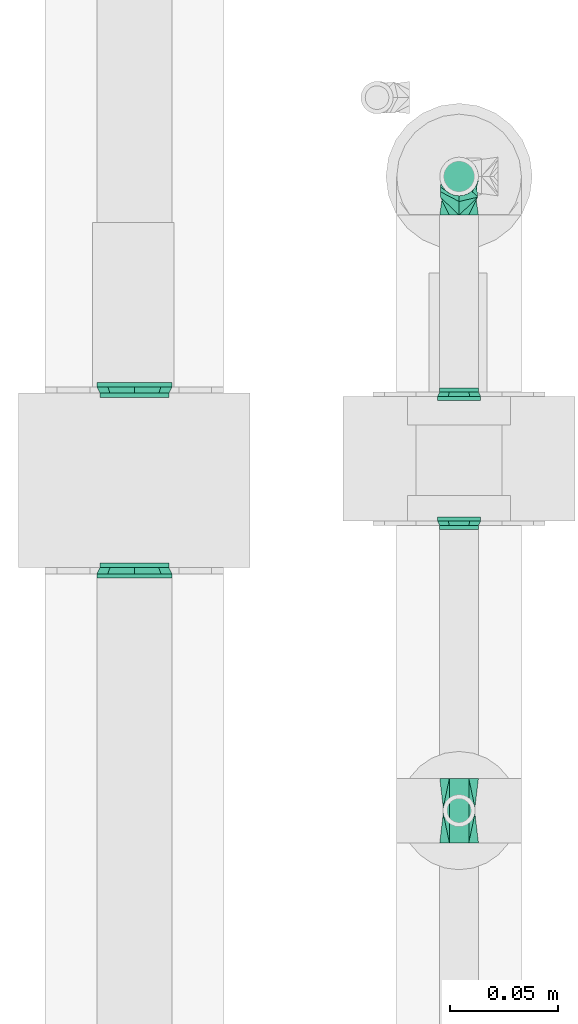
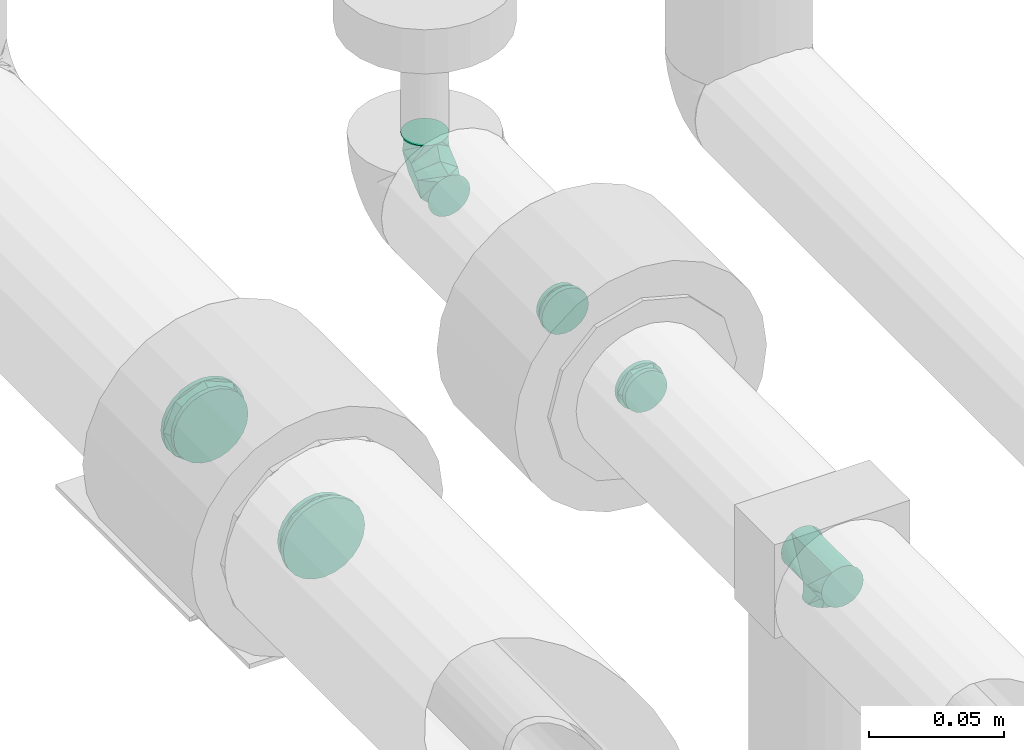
# One storey, part 40 of 78: 6 flow fittings.
"""IFC2X3 building model written with IfcOpenShell, lengths in millimetres."""

import ifcopenshell
import ifcopenshell.guid

model = None  # the IFC model being written
_history = None  # IfcOwnerHistory: only IFC2X3 demands one
_inside = {}  # id of a spatial element -> (the spatial element, [elements in it])
_under = {}  # id of a project, library or spatial element -> (it, [spatial elements below it])
_declared = {}  # id of a project -> (the project, [libraries it declares])
_typed = {}  # id of a type object -> (the type object, [elements of that type])
_made_of = {}  # id of a material, layer set ... -> (it, [elements and type objects made of it])


def new_model(schema):
    """Start an empty IFC model of exactly this schema.

    Asked for "IFC4X3", IfcOpenShell would pick the latest addendum, in which some entities
    have other attributes; the version numbers below select the first issue.
    IFC2X3 requires an IfcOwnerHistory on every rooted entity: one is made here for all.
    """
    global model, _history
    if schema == "IFC4X3":
        model = ifcopenshell.file(schema_version=(4, 3, 0, 0))
    else:
        model = ifcopenshell.file(schema=schema)
    _inside.clear()
    _under.clear()
    _declared.clear()
    _typed.clear()
    _made_of.clear()
    _history = None
    if model.schema == "IFC2X3":
        org = make("IfcOrganization", Name="unknown")
        user = make(
            "IfcPersonAndOrganization",
            ThePerson=make("IfcPerson", FamilyName="unknown"),
            TheOrganization=org,
        )
        app = make(
            "IfcApplication",
            ApplicationDeveloper=org,
            Version="unknown",
            ApplicationFullName="unknown",
            ApplicationIdentifier="unknown",
        )
        _history = make(
            "IfcOwnerHistory",
            OwningUser=user,
            OwningApplication=app,
            ChangeAction="ADDED",
            CreationDate=0,
        )
    return model


def make(cls, **values):
    """One entity of the class cls with the attributes given. An attribute that is None is left unset."""
    return model.create_entity(
        cls, **{name: value for name, value in values.items() if value is not None}
    )


def entity(cls, *values):
    """Any entity or typed value of the class cls, its attributes in the order of the schema. None: left unset."""
    e = model.create_entity(cls)
    for i, value in enumerate(values):
        if value is not None:
            e[i] = value
    return e


def rooted(cls, **values):
    """An entity with a GlobalId (a new one), such as an element, a storey or a relation."""
    return make(cls, GlobalId=ifcopenshell.guid.new(), OwnerHistory=_history, **values)


def si_unit(unit_type, name, prefix=None):
    """IfcSIUnit, for example si_unit("LENGTHUNIT", "METRE", prefix="MILLI")."""
    return make("IfcSIUnit", UnitType=unit_type, Prefix=prefix, Name=name)


def converted_unit(unit_type, name, factor, base, dimensions=None, offset=None):
    """IfcConversionBasedUnit, such as the inch: factor (a typed value) times the base unit."""
    return make(
        "IfcConversionBasedUnit"
        if offset is None
        else "IfcConversionBasedUnitWithOffset",
        ConversionOffset=offset,
        Dimensions=None
        if dimensions is None
        else entity("IfcDimensionalExponents", *dimensions),
        UnitType=unit_type,
        Name=name,
        ConversionFactor=make(
            "IfcMeasureWithUnit", ValueComponent=factor, UnitComponent=base
        ),
    )


def derived_unit(unit_type, elements):
    """IfcDerivedUnit: a product of units, each with its exponent."""
    return make(
        "IfcDerivedUnit",
        Elements=[
            make("IfcDerivedUnitElement", Unit=unit, Exponent=power)
            for unit, power in elements
        ],
        UnitType=unit_type,
    )


def assignment(units):
    """IfcUnitAssignment: the units of a project."""
    return None if units is None else make("IfcUnitAssignment", Units=units)


def point(xyz):
    """IfcCartesianPoint."""
    return None if xyz is None else make("IfcCartesianPoint", Coordinates=xyz)


def direction(xyz):
    """IfcDirection."""
    return None if xyz is None else make("IfcDirection", DirectionRatios=xyz)


def frame(location, z_axis=None, x_axis=None):
    """IfcAxis2Placement3D, a coordinate frame: its origin and axes. An axis left out is left unset."""
    return make(
        "IfcAxis2Placement3D",
        Location=point(location),
        Axis=direction(z_axis),
        RefDirection=direction(x_axis),
    )


def origin_with_axes():
    """The frame at (0, 0, 0) with the z axis (0, 0, 1) and the x axis (1, 0, 0) written out."""
    return frame((0.0, 0.0, 0.0), z_axis=(0.0, 0.0, 1.0), x_axis=(1.0, 0.0, 0.0))


def place(relative_to, where):
    """IfcLocalPlacement: puts the frame where relative to a parent placement (None: the world)."""
    return make(
        "IfcLocalPlacement", PlacementRelTo=relative_to, RelativePlacement=where
    )


def context(
    kind, dimensions, precision=None, world=None, true_north=None, identifier=None
):
    """IfcGeometricRepresentationContext, for example the 3D "Model" context."""
    return make(
        "IfcGeometricRepresentationContext",
        ContextIdentifier=identifier,
        ContextType=kind,
        CoordinateSpaceDimension=dimensions,
        Precision=precision,
        WorldCoordinateSystem=world,
        TrueNorth=true_north,
    )


def subcontext(parent, identifier, kind, view, scale=None):
    """IfcGeometricRepresentationSubContext, for example "Body" below "Model"."""
    return make(
        "IfcGeometricRepresentationSubContext",
        ContextIdentifier=identifier,
        ContextType=kind,
        ParentContext=parent,
        TargetScale=scale,
        TargetView=view,
    )


def project(units=None, contexts=None):
    """IfcProject with its units and contexts."""
    return rooted(
        "IfcProject",
        Name="project",
        RepresentationContexts=contexts,
        UnitsInContext=assignment(units),
    )


def spatial(cls, under=None, at=None, **own):
    """A site, building, storey or space (cls), placed at a placement, below another one or the project."""
    s = rooted(cls, ObjectPlacement=at, **own)
    if under is not None:
        _under.setdefault(under.id(), (under, []))[1].append(s)
    return s


def faces_of(points, faces, orient=None, outer=None):
    """IfcFace entities. A face is a list of loops; a loop is a list of indices into points, from 0.

    orient and outer hold one flag for each loop. By default every Orientation is true, the
    first loop of a face is its IfcFaceOuterBound and the others are IfcFaceBound.
    """
    made = []
    for i, loops in enumerate(faces):
        bounds = []
        for j, loop in enumerate(loops):
            is_outer = j == 0 if outer is None else outer[i][j]
            bounds.append(
                make(
                    "IfcFaceOuterBound" if is_outer else "IfcFaceBound",
                    Bound=make("IfcPolyLoop", Polygon=[points[k] for k in loop]),
                    Orientation=True if orient is None else orient[i][j],
                )
            )
        made.append(make("IfcFace", Bounds=bounds))
    return made


def open_shell(faces, orient=None, outer=None):
    """The faces of one IfcOpenShell. surface_model builds it on its shared points."""
    return ("IfcOpenShell", faces, orient, outer)


def surface_model(cls, points, shells):
    """IfcFaceBasedSurfaceModel or IfcShellBasedSurfaceModel (cls): surfaces that need not close."""
    shared = [point(p) for p in points]
    made = [make(c, CfsFaces=faces_of(shared, fs, o, b)) for c, fs, o, b in shells]
    if cls == "IfcFaceBasedSurfaceModel":
        return make(cls, FbsmFaces=made)
    return make(cls, SbsmBoundary=made)


def shape(context_of_items, identifier, shape_type, items):
    """IfcShapeRepresentation: the items that make up one representation, for example the "Body"."""
    return make(
        "IfcShapeRepresentation",
        ContextOfItems=context_of_items,
        RepresentationIdentifier=identifier,
        RepresentationType=shape_type,
        Items=items,
    )


def source(mapping_origin, context_of_items, identifier, shape_type, items):
    """IfcRepresentationMap: a shape defined once, which mapped items show again and again."""
    return make(
        "IfcRepresentationMap",
        MappingOrigin=mapping_origin,
        MappedRepresentation=shape(context_of_items, identifier, shape_type, items),
    )


def transform(
    local_origin,
    x_axis=None,
    y_axis=None,
    z_axis=None,
    scale=None,
    scale2=None,
    scale3=None,
    uniform=True,
):
    """IfcCartesianTransformationOperator3D, or its non-uniform kind. x_axis, y_axis, z_axis: its Axis1, 2, 3."""
    if uniform:
        return make(
            "IfcCartesianTransformationOperator3D",
            Axis1=direction(x_axis),
            Axis2=direction(y_axis),
            LocalOrigin=point(local_origin),
            Scale=scale,
            Axis3=direction(z_axis),
        )
    return make(
        "IfcCartesianTransformationOperator3DnonUniform",
        Axis1=direction(x_axis),
        Axis2=direction(y_axis),
        LocalOrigin=point(local_origin),
        Scale=scale,
        Axis3=direction(z_axis),
        Scale2=scale2,
        Scale3=scale3,
    )


def mapped(mapping_source, mapping_target):
    """IfcMappedItem: shows the shape of a source again, moved by a transform."""
    return make(
        "IfcMappedItem", MappingSource=mapping_source, MappingTarget=mapping_target
    )


def made_of(thing, what):
    """Note that an element or type object is made of a material, layer set ...; save() writes the relation."""
    if what is not None:
        _made_of.setdefault(what.id(), (what, []))[1].append(thing)
    return thing


def type_object(cls, material=None, **own):
    """A type object (cls), such as IfcWallType, which elements share."""
    return made_of(rooted(cls, **own), material)


def element(
    cls,
    number,
    at=None,
    inside=None,
    cuts=None,
    type_object=None,
    material=None,
    context=None,
    identifier="Body",
    shape_type=None,
    held_by="IfcProductDefinitionShape",
    body=None,
    shapes=None,
    **own,
):
    """One element of the class cls, such as IfcWall. Its Tag is "e" and its number.

    at: its placement. inside: the storey or other place that contains it. cuts: it is an
    opening in that element (IfcRelVoidsElement). A single representation is given by context,
    identifier, shape_type and body (its items); several are given by shapes. held_by: the class
    of the entity that holds the representations. save() writes the other relations.
    """
    e = rooted(cls, Tag="e%d" % number, ObjectPlacement=at, **own)
    if body is not None:
        shapes = [shape(context, identifier, shape_type, body)]
    if shapes is not None:
        e.Representation = make(held_by, Representations=shapes)
    if inside is not None:
        _inside.setdefault(inside.id(), (inside, []))[1].append(e)
    if cuts is not None:
        rooted(
            "IfcRelVoidsElement", RelatingBuildingElement=cuts, RelatedOpeningElement=e
        )
    if type_object is not None:
        _typed.setdefault(type_object.id(), (type_object, []))[1].append(e)
    return made_of(e, material)


def aggregate(whole, parts):
    """IfcRelAggregates: a whole, such as a stair, and the parts it consists of."""
    return rooted("IfcRelAggregates", RelatingObject=whole, RelatedObjects=parts)


def save(model, path):
    """Write the relations noted so far, then the file.

    IfcRelAggregates (storeys below a building ...), IfcRelContainedInSpatialStructure (elements
    in a storey), IfcRelDefinesByType, IfcRelAssociatesMaterial and IfcRelDeclares: one each for
    every whole, place, type object, material and project.
    """
    for whole, parts in _under.values():
        aggregate(whole, parts)
    for where, things in _inside.values():
        rooted(
            "IfcRelContainedInSpatialStructure",
            RelatedElements=things,
            RelatingStructure=where,
        )
    for kind, things in _typed.values():
        rooted("IfcRelDefinesByType", RelatedObjects=things, RelatingType=kind)
    for what, things in _made_of.values():
        rooted("IfcRelAssociatesMaterial", RelatedObjects=things, RelatingMaterial=what)
    for by, libraries in _declared.values():
        rooted("IfcRelDeclares", RelatingContext=by, RelatedDefinitions=libraries)
    model.write(path)


model = new_model("IFC2X3")

# Units and contexts
model_context = context("Model", 3, precision=0.01, world=frame((0.0, 4.29681676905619e-09, 0.0)), true_north=direction((4.01073788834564e-13, 1.0)))
plan_context = context("Plan", 3, precision=0.01, world=frame((0.0, 4.29681676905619e-09, 0.0)), true_north=direction((4.01073788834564e-13, 1.0)))
body_context = subcontext(model_context, "Body", "Model", "MODEL_VIEW")
ifc_project = project(units=[converted_unit("PLANEANGLEUNIT", "DEGREE", entity("IfcPositiveLengthMeasure", 0.0174532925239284), si_unit("PLANEANGLEUNIT", "RADIAN"), dimensions=[0, 0, 0, 0, 0, 0, 0]), si_unit("AREAUNIT", "SQUARE_METRE"), si_unit("LENGTHUNIT", "METRE", prefix="MILLI"), si_unit("MASSUNIT", "GRAM", prefix="KILO"), si_unit("POWERUNIT", "WATT"), si_unit("PRESSUREUNIT", "PASCAL"), si_unit("FORCEUNIT", "NEWTON", prefix="KILO"), si_unit("ELECTRICVOLTAGEUNIT", "VOLT"), si_unit("ELECTRICCURRENTUNIT", "AMPERE"), si_unit("THERMODYNAMICTEMPERATUREUNIT", "DEGREE_CELSIUS"), si_unit("TIMEUNIT", "SECOND"), si_unit("VOLUMEUNIT", "CUBIC_METRE"), derived_unit("LINEARVELOCITYUNIT", [(si_unit("LENGTHUNIT", "METRE"), 1), (si_unit("TIMEUNIT", "SECOND"), -1)]), derived_unit("VOLUMETRICFLOWRATEUNIT", [(si_unit("VOLUMEUNIT", "CUBIC_METRE"), 1), (si_unit("TIMEUNIT", "SECOND"), -1)]), derived_unit("THERMALTRANSMITTANCEUNIT", [(si_unit("POWERUNIT", "WATT"), 1), (si_unit("THERMODYNAMICTEMPERATUREUNIT", "KELVIN"), -1), (si_unit("AREAUNIT", "SQUARE_METRE"), -1)]), derived_unit("SOUNDPRESSUREUNIT", [(si_unit("PRESSUREUNIT", "PASCAL"), 1)])], contexts=[model_context, plan_context])

# Site, building, storey
site_placement = place(None, frame((0.0, -4.29681676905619e-09, 0.0), z_axis=(0.0, 0.0, 1.0), x_axis=(1.0, 0.0, 0.0)))
site = spatial("IfcSite", under=ifc_project, at=site_placement, Name="ENGM", CompositionType="ELEMENT")
building_placement = place(site_placement, frame((0.0, 4.29681676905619e-09, 0.0), z_axis=(0.0, 0.0, 1.0), x_axis=(1.0, 0.0, 0.0)))
building = spatial("IfcBuilding", under=site, at=building_placement, Name="TH", CompositionType="ELEMENT")
storey_placement = place(building_placement, frame((0.0, 0.0, 205200.0), z_axis=(0.0, 0.0, 1.0), x_axis=(1.0, 0.0, 0.0)))
storey = spatial("IfcBuildingStorey", under=building, at=storey_placement, Name="Nivå D + 1,2 m", CompositionType="ELEMENT", Elevation=205200.0)

# Flow fittings
pipe_fitting_type_1 = type_object("IfcPipeFittingType", Name="magi_pipe_cu_elbow_short_001", PredefinedType="BEND")
shared_shape_1 = source(origin_with_axes(), body_context, "Body", "SurfaceModel", [
    surface_model("IfcShellBasedSurfaceModel", [(-18.0, 4.5, -7.79423), (-18.0, 2.32937, -8.69333), (-18.0, 0.0, -9.0), (-18.0, -6.36396, -6.36396), (-18.0, 8.69333, -2.32937), (-18.0, 7.79423, -4.5), (-18.0, 6.36396, -6.36396), (-18.0, -4.5, -7.79423), (-18.0, -2.32937, -8.69333), (-18.0, -7.79423, -4.5), (-18.0, -8.69333, -2.32937), (-18.0, -9.0, 0.0), (-18.0, 8.69333, 2.32937), (-18.0, -8.69333, 2.32937), (-18.0, 7.79423, 4.5), (-18.0, 6.36396, 6.36396), (-18.0, 2.32937, 8.69333), (-18.0, 4.5, 7.79423), (-18.0, -7.79423, 4.5), (-18.0, -6.36396, 6.36396), (-18.0, -4.5, 7.79423), (-18.0, -2.32937, 8.69333), (-18.0, 0.0, 9.0), (-18.0, 9.0, 0.0), (0.0, 18.0, -9.0), (-2.32937, 18.0, -8.69333), (-4.5, 18.0, -7.79423), (6.36396, 18.0, -6.36396), (-6.36396, 18.0, -6.36396), (-7.79423, 18.0, -4.5), (-8.69333, 18.0, -2.32937), (-8.69333, 18.0, 2.32937), (2.32937, 18.0, -8.69333), (4.5, 18.0, -7.79423), (8.69333, 18.0, -2.32937), (7.79423, 18.0, -4.5), (9.0, 18.0, 0.0), (7.79423, 18.0, 4.5), (-9.0, 18.0, 0.0), (-6.36396, 18.0, 6.36396), (-7.79423, 18.0, 4.5), (-4.5, 18.0, 7.79423), (-2.32937, 18.0, 8.69333), (6.36396, 18.0, 6.36396), (8.69333, 18.0, 2.32937), (2.32937, 18.0, 8.69333), (4.5, 18.0, 7.79423), (0.0, 18.0, 9.0), (-16.09014, -8.48825, 0.0), (-10.51068, -2.97249, 7.92278), (-10.36056, -6.95302, 0.0), (-4.5, -5.38269, 0.0), (0.44134, -0.44134, 0.0), (2.91201, 2.02933, 0.0), (-2.70211, 1.18586, 7.65564), (-2.02933, -2.91201, 0.0), (-14.18028, -7.97651, 0.0), (-7.11648, 7.11648, 8.61373), (-4.93977, 9.63211, 8.64898), (2.97249, 10.51068, 7.92278), (2.01286, 5.84889, 7.1903), (5.38269, 4.5, 0.0), (-5.73616, -2.07922, 7.10204), (8.48825, 16.09014, 0.0), (7.97651, 14.18028, 0.0), (-9.63211, 4.93977, 8.64898), (-10.31802, 14.81802, 0.0), (-14.81802, 10.31802, 0.0), (-11.63604, 11.63604, 0.0), (6.95302, 10.36056, 0.0), (-10.51068, -2.97249, -7.92278), (-4.93977, 9.63211, -8.64898), (0.8585, 4.1248, -7.1903), (-2.68792, 2.14037, -8.03971), (2.97249, 10.51068, -7.92278), (-13.67048, 7.29638, -6.27272), (-8.50355, 2.18787, -8.98901), (-9.83427, 8.11209, -7.36254)], [open_shell([[[0, 1, 2]], [[0, 2, 3]], [[0, 4, 5]], [[6, 0, 5]], [[4, 0, 3]], [[7, 3, 8]], [[3, 2, 8]], [[9, 10, 3]], [[11, 3, 10]], [[3, 11, 4]], [[11, 12, 4]], [[12, 11, 13]], [[14, 12, 15]], [[16, 17, 15]], [[13, 15, 12]], [[15, 18, 16]], [[18, 19, 16]], [[15, 13, 18]], [[20, 21, 19]], [[22, 19, 21]], [[16, 19, 22]], [[23, 4, 12]], [[24, 25, 26]], [[27, 24, 26]], [[28, 29, 30]], [[28, 30, 26]], [[26, 31, 27]], [[32, 27, 33]], [[32, 24, 27]], [[27, 34, 35]], [[34, 27, 36]], [[27, 37, 36]], [[26, 30, 38]], [[27, 31, 37]], [[39, 31, 40]], [[39, 41, 42]], [[39, 42, 31]], [[43, 31, 42]], [[31, 43, 37]], [[44, 36, 37]], [[43, 45, 46]], [[45, 43, 47]], [[47, 43, 42]], [[31, 26, 38]], [[13, 48, 18]], [[49, 50, 51]], [[52, 53, 54]], [[54, 55, 52]], [[20, 19, 56]], [[18, 56, 19]], [[57, 54, 58]], [[20, 50, 21]], [[22, 21, 50]], [[59, 60, 61]], [[59, 58, 60]], [[55, 54, 62]], [[22, 50, 49]], [[22, 49, 16]], [[62, 49, 51]], [[62, 51, 55]], [[37, 63, 44]], [[49, 17, 16]], [[64, 63, 37]], [[12, 65, 23]], [[14, 15, 49]], [[54, 65, 62]], [[17, 49, 15]], [[58, 38, 66]], [[67, 57, 68]], [[53, 60, 54]], [[45, 47, 69]], [[69, 46, 45]], [[39, 59, 41]], [[42, 59, 47]], [[43, 46, 64]], [[68, 57, 66]], [[64, 46, 69]], [[61, 60, 53]], [[44, 63, 36]], [[59, 61, 69]], [[38, 58, 31]], [[20, 56, 50]], [[54, 57, 65]], [[49, 65, 14]], [[66, 57, 58]], [[64, 37, 43]], [[40, 31, 58]], [[14, 65, 12]], [[39, 40, 59]], [[13, 11, 48]], [[40, 58, 59]], [[48, 56, 18]], [[41, 59, 42]], [[59, 69, 47]], [[49, 62, 65]], [[57, 67, 65]], [[54, 60, 58]], [[67, 23, 65]], [[70, 50, 2]], [[71, 72, 73]], [[74, 71, 29]], [[70, 1, 0]], [[70, 51, 50]], [[34, 36, 63]], [[75, 6, 5]], [[75, 4, 23]], [[5, 4, 75]], [[51, 76, 55]], [[75, 23, 67]], [[70, 6, 75]], [[48, 11, 10]], [[7, 56, 3]], [[2, 50, 8]], [[51, 70, 76]], [[56, 7, 50]], [[7, 8, 50]], [[70, 2, 1]], [[66, 38, 71]], [[52, 72, 53]], [[6, 70, 0]], [[70, 75, 76]], [[73, 52, 55]], [[71, 68, 66]], [[61, 53, 72]], [[33, 64, 69]], [[30, 71, 38]], [[28, 74, 29]], [[56, 9, 3]], [[26, 25, 74]], [[63, 64, 35]], [[56, 48, 9]], [[26, 74, 28]], [[9, 48, 10]], [[24, 74, 25]], [[32, 69, 24]], [[29, 71, 30]], [[27, 64, 33]], [[69, 32, 33]], [[68, 71, 77]], [[74, 24, 69]], [[35, 34, 63]], [[61, 72, 74]], [[61, 74, 69]], [[67, 77, 75]], [[74, 72, 71]], [[35, 64, 27]], [[76, 77, 73]], [[75, 77, 76]], [[77, 71, 73]], [[55, 76, 73]], [[72, 52, 73]], [[77, 67, 68]]])]),
])
flow_fitting_1_placement = place(storey_placement, frame((895520.48466, 478549.2375, 4450.0), z_axis=(-1.0, 0.0, 0.0), x_axis=(0.0, 3.999999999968e-06, -0.999999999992)))
element("IfcFlowFitting", 1, at=flow_fitting_1_placement, inside=storey, type_object=pipe_fitting_type_1, Name="magi_pipe_cu_elbow_short_001", context=body_context, shape_type="MappedRepresentation", body=[
    mapped(shared_shape_1, transform((0.0, 0.0, 0.0), scale=1.0)),
])
pipe_fitting_type_2 = type_object("IfcPipeFittingType", Name="magi_pipe_cu_reducer_centric_short_001", PredefinedType="TRANSITION")
shared_shape_2 = source(origin_with_axes(), body_context, "Body", "SurfaceModel", [
    surface_model("IfcShellBasedSurfaceModel", [(4.0, 4.5, -7.79423), (4.0, -6.36396, -6.36396), (4.0, 2.32937, -8.69333), (4.0, 8.69333, -2.32937), (4.0, 6.36396, -6.36396), (4.0, 7.79423, -4.5), (4.0, 7.79423, 4.5), (4.0, -8.69333, -2.32937), (4.0, 0.0, -9.0), (4.0, -4.5, -7.79423), (4.0, -2.32937, -8.69333), (4.0, -7.79423, -4.5), (4.0, 9.0, 0.0), (4.0, 8.69333, 2.32937), (4.0, -9.0, 0.0), (4.0, 0.0, 9.0), (4.0, 6.36396, 6.36396), (4.0, 4.5, 7.79423), (4.0, 2.32937, 8.69333), (4.0, -6.36396, 6.36396), (4.0, -8.69333, 2.32937), (4.0, -7.79423, 4.5), (4.0, -2.32937, 8.69333), (4.0, -4.5, 7.79423), (2.0, 0.0, 9.0), (2.0, 2.32937, 8.69333), (2.0, 4.5, 7.79423), (2.0, 6.36396, 6.36396), (2.0, -9.0, 0.0), (2.0, -8.69333, -2.32937), (2.0, 7.79423, 4.5), (2.0, -2.32937, 8.69333), (2.0, -6.36396, 6.36396), (2.0, -4.5, 7.79423), (2.0, -8.69333, 2.32937), (2.0, -7.79423, 4.5), (2.0, 8.69333, 2.32937), (2.0, 8.69333, -2.32937), (2.0, 6.36396, -6.36396), (2.0, 7.79423, -4.5), (2.0, 4.5, -7.79423), (2.0, 2.32937, -8.69333), (2.0, -4.5, -7.79423), (2.0, -6.36396, -6.36396), (2.0, -7.79423, -4.5), (2.0, 0.0, -9.0), (2.0, -2.32937, -8.69333), (2.0, 9.0, 0.0), (-2.0, 2.58819, 9.65926), (-2.0, -8.66025, 5.0), (-2.0, 0.0, 10.0), (-2.0, 5.0, 8.66025), (-2.0, -9.65926, -2.58819), (-2.0, 7.07107, -7.07107), (-2.0, 7.07107, 7.07107), (-2.0, 8.66025, 5.0), (-2.0, -9.65926, 2.58819), (-2.0, -2.58819, 9.65926), (-2.0, -7.07107, 7.07107), (-2.0, -5.0, 8.66025), (-2.0, -10.0, 0.0), (-2.0, 9.65926, 2.58819), (-2.0, 10.0, 0.0), (-2.0, 9.65926, -2.58819), (-2.0, 8.66025, -5.0), (-2.0, 5.0, -8.66025), (-2.0, -5.0, -8.66025), (-2.0, 0.0, -10.0), (-2.0, 2.58819, -9.65926), (-2.0, -7.07107, -7.07107), (-2.0, -8.66025, -5.0), (-2.0, -2.58819, -9.65926), (0.0, 5.0, -8.66025), (0.0, 0.0, -10.0), (0.0, 2.58819, -9.65926), (0.0, -10.0, 0.0), (0.0, 8.66025, 5.0), (0.0, 8.66025, -5.0), (0.0, 9.65926, -2.58819), (0.0, 7.07107, 7.07107), (0.0, 7.07107, -7.07107), (0.0, -5.0, -8.66025), (0.0, -2.58819, -9.65926), (0.0, -7.07107, -7.07107), (0.0, -9.65926, -2.58819), (0.0, -8.66025, -5.0), (0.0, 10.0, 0.0), (0.0, -9.65926, 2.58819), (0.0, 2.58819, 9.65926), (0.0, 5.0, 8.66025), (0.0, -8.66025, 5.0), (0.0, 0.0, 10.0), (0.0, -7.07107, 7.07107), (0.0, -2.58819, 9.65926), (0.0, -5.0, 8.66025), (0.0, 9.65926, 2.58819)], [open_shell([[[0, 1, 2]], [[3, 0, 4]], [[1, 0, 3]], [[3, 4, 5]], [[6, 7, 3]], [[8, 9, 10]], [[9, 8, 1]], [[1, 7, 11]], [[1, 8, 2]], [[3, 7, 1]], [[3, 12, 13]], [[14, 7, 6]], [[15, 6, 16]], [[17, 18, 15]], [[17, 15, 16]], [[19, 6, 15]], [[20, 19, 21]], [[19, 20, 14]], [[19, 22, 23]], [[19, 14, 6]], [[15, 22, 19]], [[6, 3, 13]], [[24, 25, 26]], [[24, 26, 27]], [[28, 24, 29]], [[30, 24, 27]], [[30, 29, 24]], [[31, 32, 33]], [[31, 24, 32]], [[32, 34, 35]], [[34, 32, 28]], [[24, 28, 32]], [[30, 36, 37]], [[29, 30, 37]], [[38, 37, 39]], [[37, 40, 29]], [[40, 37, 38]], [[41, 42, 40]], [[29, 43, 44]], [[29, 40, 43]], [[42, 45, 46]], [[42, 43, 40]], [[45, 42, 41]], [[37, 36, 47]], [[29, 7, 28]], [[44, 11, 29]], [[9, 43, 42]], [[44, 43, 1]], [[10, 42, 46]], [[29, 11, 7]], [[7, 14, 28]], [[10, 9, 42]], [[1, 43, 9]], [[1, 11, 44]], [[8, 10, 46]], [[46, 45, 8]], [[41, 2, 45]], [[40, 0, 41]], [[5, 38, 39]], [[40, 38, 4]], [[3, 39, 37]], [[40, 4, 0]], [[0, 2, 41]], [[12, 3, 37]], [[5, 39, 3]], [[5, 4, 38]], [[47, 12, 37]], [[45, 2, 8]], [[36, 13, 47]], [[30, 6, 36]], [[17, 27, 26]], [[30, 27, 16]], [[18, 26, 25]], [[36, 6, 13]], [[13, 12, 47]], [[18, 17, 26]], [[16, 27, 17]], [[16, 6, 30]], [[15, 18, 25]], [[25, 24, 15]], [[31, 22, 24]], [[33, 23, 31]], [[21, 32, 35]], [[33, 32, 19]], [[20, 35, 34]], [[33, 19, 23]], [[23, 22, 31]], [[14, 20, 34]], [[21, 35, 20]], [[21, 19, 32]], [[28, 14, 34]], [[24, 22, 15]], [[48, 49, 50]], [[51, 52, 48]], [[53, 54, 55]], [[51, 54, 52]], [[48, 52, 56]], [[57, 58, 59]], [[58, 57, 49]], [[48, 56, 49]], [[49, 57, 50]], [[52, 60, 56]], [[55, 61, 62]], [[62, 63, 64]], [[64, 53, 55]], [[54, 65, 66]], [[54, 53, 65]], [[67, 65, 68]], [[52, 69, 70]], [[69, 52, 66]], [[66, 67, 71]], [[52, 54, 66]], [[65, 67, 66]], [[62, 64, 55]], [[72, 73, 74]], [[75, 73, 72]], [[76, 77, 78]], [[79, 72, 80]], [[76, 80, 77]], [[73, 81, 82]], [[81, 73, 75]], [[83, 84, 85]], [[84, 83, 81]], [[81, 75, 84]], [[76, 78, 86]], [[76, 79, 80]], [[72, 79, 87]], [[87, 79, 88]], [[88, 79, 89]], [[90, 88, 91]], [[88, 90, 87]], [[75, 72, 87]], [[92, 93, 94]], [[93, 92, 90]], [[93, 90, 91]], [[76, 86, 95]], [[52, 84, 60]], [[70, 85, 52]], [[81, 69, 66]], [[70, 69, 83]], [[82, 66, 71]], [[52, 85, 84]], [[84, 75, 60]], [[82, 81, 66]], [[83, 69, 81]], [[83, 85, 70]], [[73, 82, 71]], [[71, 67, 73]], [[68, 74, 67]], [[65, 72, 68]], [[77, 53, 64]], [[65, 53, 80]], [[78, 64, 63]], [[65, 80, 72]], [[72, 74, 68]], [[86, 78, 63]], [[77, 64, 78]], [[77, 80, 53]], [[62, 86, 63]], [[67, 74, 73]], [[61, 95, 62]], [[55, 76, 61]], [[89, 54, 51]], [[55, 54, 79]], [[88, 51, 48]], [[61, 76, 95]], [[95, 86, 62]], [[88, 89, 51]], [[79, 54, 89]], [[79, 76, 55]], [[91, 88, 48]], [[48, 50, 91]], [[57, 93, 50]], [[59, 94, 57]], [[90, 58, 49]], [[59, 58, 92]], [[87, 49, 56]], [[59, 92, 94]], [[94, 93, 57]], [[75, 87, 56]], [[90, 49, 87]], [[90, 92, 58]], [[60, 75, 56]], [[50, 93, 91]], [[26, 33, 47]], [[47, 33, 42]], [[42, 40, 47]], [[42, 33, 28]], [[89, 75, 94]], [[75, 89, 72]], [[72, 81, 75]], [[72, 89, 86]], [[47, 40, 86]], [[72, 86, 40]], [[40, 42, 72]], [[42, 28, 81]], [[75, 81, 28]], [[42, 81, 72]], [[28, 33, 75]], [[94, 75, 33]], [[33, 26, 94]], [[26, 47, 89]], [[86, 89, 47]], [[26, 89, 94]]])]),
])
for number, where, z_axis, x_axis, name in (
    (2, (895520.48466, 478446.98509, 4450.0), (0.0, 0.0, 1.0), (0.0, 1.0, 0.0), "magi_pipe_cu_reducer_centric_short_001"),
    (3, (895520.48466, 478388.98509, 4450.0), (0.0, 0.0, 1.0), (0.0, -1.0, 0.0), "magi_pipe_cu_reducer_centric_short_001"),
):
    element("IfcFlowFitting", number, at=place(storey_placement, frame(where, z_axis=z_axis, x_axis=x_axis)), inside=storey, type_object=pipe_fitting_type_2, Name=name, context=body_context, shape_type="MappedRepresentation", body=[
        mapped(shared_shape_2, transform((0.0, 0.0, 0.0), scale=1.0)),
    ])
shared_shape_3 = source(origin_with_axes(), body_context, "Body", "SurfaceModel", [
    surface_model("IfcShellBasedSurfaceModel", [(5.0, 4.52933, -16.9037), (5.0, 8.75, -15.15544), (5.0, 12.37437, -12.37437), (5.0, 16.9037, -4.52933), (5.0, -8.75, -15.15544), (5.0, 15.15544, -8.75), (5.0, -16.9037, 4.52933), (5.0, -15.15544, -8.75), (5.0, 0.0, -17.5), (5.0, -4.52933, -16.9037), (5.0, -12.37437, -12.37437), (5.0, -17.5, 0.0), (5.0, -16.9037, -4.52933), (5.0, 0.0, 17.5), (5.0, 17.5, 0.0), (5.0, 16.9037, 4.52933), (5.0, 15.15544, 8.75), (5.0, 12.37437, 12.37437), (5.0, 4.52933, 16.9037), (5.0, 8.75, 15.15544), (5.0, -12.37437, 12.37437), (5.0, -15.15544, 8.75), (5.0, -8.75, 15.15544), (5.0, -4.52933, 16.9037), (3.0, 0.0, 17.5), (3.0, 4.52933, 16.9037), (3.0, 8.75, 15.15544), (3.0, -15.15544, -8.75), (3.0, 12.37437, 12.37437), (3.0, 15.15544, 8.75), (3.0, 16.9037, 4.52933), (3.0, -16.9037, 4.52933), (3.0, -8.75, 15.15544), (3.0, -12.37437, 12.37437), (3.0, -4.52933, 16.9037), (3.0, -15.15544, 8.75), (3.0, -17.5, 0.0), (3.0, 16.9037, -4.52933), (3.0, 12.37437, -12.37437), (3.0, 15.15544, -8.75), (3.0, 8.75, -15.15544), (3.0, 4.52933, -16.9037), (3.0, 0.0, -17.5), (3.0, -8.75, -15.15544), (3.0, -12.37437, -12.37437), (3.0, -16.9037, -4.52933), (3.0, -4.52933, -16.9037), (3.0, 17.5, 0.0), (-2.0, 0.0, 16.0), (-2.0, 4.1411, 15.45481), (-2.0, 8.0, 13.85641), (-2.0, -4.1411, 15.45481), (-2.0, 11.31371, 11.31371), (-2.0, 13.85641, 8.0), (-2.0, 15.45481, 4.1411), (-2.0, -15.45481, -4.1411), (-2.0, -11.31371, 11.31371), (-2.0, -8.0, 13.85641), (-2.0, -13.85641, 8.0), (-2.0, -15.45481, 4.1411), (-2.0, -16.0, 0.0), (-2.0, 4.1411, -15.45481), (-2.0, 11.31371, -11.31371), (-2.0, 16.0, 0.0), (-2.0, 15.45481, -4.1411), (-2.0, 13.85641, -8.0), (-2.0, 8.0, -13.85641), (-2.0, -8.0, -13.85641), (-2.0, -13.85641, -8.0), (-2.0, -11.31371, -11.31371), (-2.0, 0.0, -16.0), (-2.0, -4.1411, -15.45481), (0.0, 4.1411, -15.45481), (0.0, 8.0, -13.85641), (0.0, 11.31371, -11.31371), (0.0, -8.0, -13.85641), (0.0, 15.45481, -4.1411), (0.0, 16.0, 0.0), (0.0, 13.85641, -8.0), (0.0, 0.0, -16.0), (0.0, -4.1411, -15.45481), (0.0, -13.85641, -8.0), (0.0, -11.31371, -11.31371), (0.0, -15.45481, -4.1411), (0.0, 15.45481, 4.1411), (0.0, 13.85641, 8.0), (0.0, 11.31371, 11.31371), (0.0, -4.1411, 15.45481), (0.0, 8.0, 13.85641), (0.0, 4.1411, 15.45481), (0.0, 0.0, 16.0), (0.0, -13.85641, 8.0), (0.0, -15.45481, 4.1411), (0.0, -16.0, 0.0), (0.0, -11.31371, 11.31371), (0.0, -8.0, 13.85641), (0.0, -12.48528, -8.48528), (3.0, -14.02009, -8.40124), (0.0, -13.65685, -5.65685), (0.0, -2.82843, -14.82843), (3.0, -9.28078, -13.65578), (3.0, -3.09359, -16.21859), (0.0, -8.48528, -12.48528), (3.0, -6.18718, -14.93718), (3.0, 3.09359, -16.21859), (0.0, 2.82843, -14.82843), (3.0, 9.28078, -13.65578), (0.0, 5.65685, -13.65685), (0.0, 8.48528, -12.48528), (0.0, -14.82843, -2.82843), (3.0, -15.76005, -4.20062), (3.0, 13.65578, -9.28078), (0.0, 12.48528, -8.48528), (3.0, 14.93718, -6.18718), (0.0, 13.65685, -5.65685), (3.0, 16.21859, -3.09359), (0.0, 14.40919, -3.84057), (0.0, -5.65685, -13.65685), (3.0, 6.18718, -14.93718), (0.0, 12.48528, 8.48528), (3.0, 14.02009, 8.40124), (0.0, 13.65685, 5.65685), (0.0, 2.82843, 14.82843), (3.0, 9.28078, 13.65578), (3.0, 3.09359, 16.21859), (0.0, 8.48528, 12.48528), (3.0, 6.18718, 14.93718), (3.0, -3.09359, 16.21859), (0.0, -2.82843, 14.82843), (3.0, -9.28078, 13.65578), (0.0, -5.65685, 13.65685), (0.0, -8.48528, 12.48528), (0.0, 14.82843, 2.82843), (3.0, 15.76005, 4.20062), (3.0, -13.65578, 9.28078), (0.0, -12.48528, 8.48528), (3.0, -14.93718, 6.18718), (0.0, -13.65685, 5.65685), (3.0, -16.21859, 3.09359), (0.0, -14.40919, 3.84057), (0.0, 5.65685, 13.65685), (3.0, -6.18718, 14.93718)], [open_shell([[[0, 1, 2]], [[0, 2, 3]], [[0, 3, 4]], [[3, 2, 5]], [[6, 7, 3]], [[8, 4, 9]], [[8, 0, 4]], [[4, 7, 10]], [[3, 7, 4]], [[7, 11, 12]], [[13, 3, 14]], [[15, 16, 17]], [[15, 17, 13]], [[18, 13, 17]], [[18, 17, 19]], [[13, 6, 3]], [[6, 20, 21]], [[11, 7, 6]], [[6, 22, 20]], [[22, 6, 23]], [[13, 23, 6]], [[14, 15, 13]], [[24, 25, 26]], [[27, 24, 26]], [[28, 29, 30]], [[28, 30, 26]], [[31, 24, 27]], [[32, 31, 33]], [[31, 32, 34]], [[33, 31, 35]], [[34, 24, 31]], [[31, 27, 36]], [[30, 27, 26]], [[30, 37, 27]], [[38, 37, 39]], [[38, 40, 41]], [[38, 41, 37]], [[42, 37, 41]], [[27, 43, 44]], [[45, 36, 27]], [[43, 42, 46]], [[43, 27, 37]], [[42, 43, 37]], [[37, 30, 47]], [[45, 12, 36]], [[27, 7, 45]], [[4, 44, 43]], [[27, 44, 10]], [[9, 43, 46]], [[45, 7, 12]], [[12, 11, 36]], [[9, 4, 43]], [[10, 44, 4]], [[10, 7, 27]], [[8, 9, 46]], [[46, 42, 8]], [[41, 0, 42]], [[40, 1, 41]], [[5, 38, 39]], [[40, 38, 2]], [[3, 39, 37]], [[40, 2, 1]], [[1, 0, 41]], [[14, 3, 37]], [[5, 39, 3]], [[5, 2, 38]], [[47, 14, 37]], [[42, 0, 8]], [[30, 15, 47]], [[29, 16, 30]], [[19, 28, 26]], [[29, 28, 17]], [[18, 26, 25]], [[30, 16, 15]], [[15, 14, 47]], [[18, 19, 26]], [[17, 28, 19]], [[17, 16, 29]], [[13, 18, 25]], [[25, 24, 13]], [[34, 23, 24]], [[32, 22, 34]], [[21, 33, 35]], [[32, 33, 20]], [[6, 35, 31]], [[32, 20, 22]], [[22, 23, 34]], [[11, 6, 31]], [[21, 35, 6]], [[21, 20, 33]], [[36, 11, 31]], [[24, 23, 13]], [[48, 49, 50]], [[51, 48, 50]], [[52, 53, 54]], [[55, 51, 50]], [[52, 55, 50]], [[51, 56, 57]], [[56, 51, 58]], [[58, 55, 59]], [[60, 59, 55]], [[51, 55, 58]], [[61, 52, 54]], [[62, 63, 64]], [[62, 64, 65]], [[62, 66, 61]], [[61, 54, 62]], [[61, 67, 52]], [[68, 67, 69]], [[67, 68, 55]], [[67, 70, 71]], [[55, 52, 67]], [[61, 70, 67]], [[62, 54, 63]], [[72, 73, 74]], [[75, 72, 74]], [[76, 77, 74]], [[76, 74, 78]], [[75, 74, 77]], [[79, 75, 80]], [[79, 72, 75]], [[75, 81, 82]], [[81, 75, 83]], [[77, 83, 75]], [[77, 84, 83]], [[84, 85, 86]], [[87, 84, 86]], [[88, 89, 90]], [[87, 86, 88]], [[87, 88, 90]], [[83, 91, 92]], [[93, 83, 92]], [[94, 87, 95]], [[87, 94, 91]], [[91, 83, 87]], [[83, 84, 87]], [[55, 83, 60]], [[68, 81, 55]], [[75, 69, 67]], [[68, 69, 82]], [[80, 67, 71]], [[55, 81, 83]], [[83, 93, 60]], [[80, 75, 67]], [[82, 69, 75]], [[82, 81, 68]], [[79, 80, 71]], [[71, 70, 79]], [[61, 72, 70]], [[66, 73, 61]], [[78, 62, 65]], [[66, 62, 74]], [[76, 65, 64]], [[66, 74, 73]], [[73, 72, 61]], [[77, 76, 64]], [[78, 65, 76]], [[78, 74, 62]], [[63, 77, 64]], [[70, 72, 79]], [[54, 84, 63]], [[53, 85, 54]], [[88, 52, 50]], [[53, 52, 86]], [[89, 50, 49]], [[54, 85, 84]], [[84, 77, 63]], [[89, 88, 50]], [[86, 52, 88]], [[86, 85, 53]], [[90, 89, 49]], [[49, 48, 90]], [[51, 87, 48]], [[57, 95, 51]], [[91, 56, 58]], [[57, 56, 94]], [[92, 58, 59]], [[57, 94, 95]], [[95, 87, 51]], [[93, 92, 59]], [[91, 58, 92]], [[91, 94, 56]], [[60, 93, 59]], [[48, 87, 90]], [[38, 28, 24]], [[38, 47, 28]], [[24, 33, 36]], [[36, 44, 42]], [[42, 38, 36]], [[36, 38, 24]], [[82, 94, 90]], [[82, 93, 94]], [[90, 86, 77]], [[77, 74, 82]], [[79, 82, 74]], [[77, 82, 90]], [[44, 96, 82]], [[97, 98, 96]], [[99, 79, 42]], [[82, 100, 44]], [[99, 42, 101]], [[102, 103, 100]], [[104, 79, 105]], [[106, 107, 108]], [[36, 109, 110]], [[104, 42, 79]], [[111, 74, 112]], [[113, 112, 114]], [[108, 38, 106]], [[77, 115, 116]], [[44, 97, 96]], [[116, 113, 114]], [[101, 103, 117]], [[107, 106, 118]], [[105, 107, 118]], [[98, 97, 110]], [[103, 102, 117]], [[82, 102, 100]], [[101, 117, 99]], [[112, 113, 111]], [[111, 38, 74]], [[115, 77, 47]], [[115, 113, 116]], [[108, 74, 38]], [[105, 118, 104]], [[109, 36, 93]], [[109, 98, 110]], [[28, 119, 86]], [[120, 121, 119]], [[122, 90, 24]], [[86, 123, 28]], [[122, 24, 124]], [[125, 126, 123]], [[127, 90, 128]], [[129, 130, 131]], [[47, 132, 133]], [[127, 24, 90]], [[134, 94, 135]], [[136, 135, 137]], [[131, 33, 129]], [[93, 138, 139]], [[28, 120, 119]], [[139, 136, 137]], [[124, 126, 140]], [[130, 129, 141]], [[128, 130, 141]], [[121, 120, 133]], [[126, 125, 140]], [[86, 125, 123]], [[124, 140, 122]], [[135, 136, 134]], [[134, 33, 94]], [[138, 93, 36]], [[138, 136, 139]], [[131, 94, 33]], [[128, 141, 127]], [[132, 47, 77]], [[132, 121, 133]]])]),
])
for number, where, z_axis, x_axis, name in (
    (4, (895369.5, 478448.45641, 4450.0), (0.0, 0.0, 1.0), (0.0, 1.0, 0.0), "magi_pipe_cu_reducer_centric_short_001"),
    (5, (895369.5, 478367.45641, 4450.0), (0.0, 0.0, 1.0), (0.0, -1.0, 0.0), "magi_pipe_cu_reducer_centric_short_001"),
):
    element("IfcFlowFitting", number, at=place(storey_placement, frame(where, z_axis=z_axis, x_axis=x_axis)), inside=storey, type_object=pipe_fitting_type_2, Name=name, context=body_context, shape_type="MappedRepresentation", body=[
        mapped(shared_shape_3, transform((0.0, 0.0, 0.0), scale=1.0)),
    ])
pipe_fitting_type_3 = type_object("IfcPipeFittingType", Name="magi_pipe_cu_tee_centric_90_001", PredefinedType="JUNCTION")
shared_shape_4 = source(origin_with_axes(), body_context, "Body", "SurfaceModel", [
    surface_model("IfcShellBasedSurfaceModel", [(-15.0, 4.5, -7.79423), (-15.0, 2.32937, -8.69333), (-15.0, 0.0, -9.0), (-15.0, -2.32937, -8.69333), (-15.0, 7.79423, -4.5), (-15.0, 6.36396, -6.36396), (-15.0, 8.69333, -2.32937), (-15.0, -4.5, -7.79423), (-15.0, -6.36396, -6.36396), (-15.0, -7.79423, -4.5), (-15.0, -8.69333, -2.32937), (-15.0, -9.0, 0.0), (-15.0, -4.5, 7.79423), (-15.0, 8.69333, 2.32937), (-15.0, 9.0, 0.0), (-15.0, 2.32937, 8.69333), (-15.0, 7.79423, 4.5), (-15.0, 4.5, 7.79423), (-15.0, 6.36396, 6.36396), (-15.0, 0.0, 9.0), (-15.0, -6.36396, 6.36396), (-15.0, -7.79423, 4.5), (-15.0, -8.69333, 2.32937), (-15.0, -2.32937, 8.69333), (15.0, 0.0, -9.0), (15.0, 2.32937, -8.69333), (15.0, 4.5, -7.79423), (15.0, -9.0, 0.0), (15.0, -4.5, 7.79423), (15.0, 7.79423, -4.5), (15.0, 6.36396, -6.36396), (15.0, 8.69333, 2.32937), (15.0, -4.5, -7.79423), (15.0, -2.32937, -8.69333), (15.0, -6.36396, -6.36396), (15.0, -8.69333, -2.32937), (15.0, -7.79423, -4.5), (15.0, 8.69333, -2.32937), (15.0, 9.0, 0.0), (15.0, 2.32937, 8.69333), (15.0, 7.79423, 4.5), (15.0, 4.5, 7.79423), (15.0, 6.36396, 6.36396), (15.0, -7.79423, 4.5), (15.0, -6.36396, 6.36396), (15.0, -8.69333, 2.32937), (15.0, 0.0, 9.0), (15.0, -2.32937, 8.69333), (7.5, -9.0, 0.0), (6.9985, -8.58656, 2.69649), (5.67205, -7.54468, 4.90692), (3.77808, -6.24691, 6.4789), (1.37541, -5.16157, 7.3728), (-7.5, -9.0, 0.0), (-6.99877, -8.58678, 2.69578), (-5.673, -7.54539, 4.90582), (-3.77855, -6.24719, 6.47862), (-1.37789, -5.16223, 7.37234), (1.37541, -5.16157, -7.3728), (3.77808, -6.24691, -6.4789), (-1.37789, -5.16223, -7.37234), (-3.77855, -6.24719, -6.47862), (5.67205, -7.54468, -4.90692), (6.9985, -8.58656, -2.69649), (-5.673, -7.54539, -4.90582), (-6.99877, -8.58678, -2.69578), (5.3033, -13.5, -5.3033), (0.0, -13.5, -7.5), (1.94114, -13.5, -7.24444), (3.75, -13.5, -6.49519), (6.49519, -13.5, -3.75), (7.24444, -13.5, -1.94114), (-5.3033, -13.5, -5.3033), (-7.5, -13.5, 0.0), (-1.94114, -13.5, -7.24444), (-3.75, -13.5, -6.49519), (-6.49519, -13.5, -3.75), (-7.24444, -13.5, -1.94114), (3.75, -13.5, 6.49519), (7.5, -13.5, 0.0), (7.24444, -13.5, 1.94114), (6.49519, -13.5, 3.75), (0.0, -13.5, 7.5), (5.3033, -13.5, 5.3033), (1.94114, -13.5, 7.24444), (-7.24444, -13.5, 1.94114), (-5.3033, -13.5, 5.3033), (-6.49519, -13.5, 3.75), (-3.75, -13.5, 6.49519), (-1.94114, -13.5, 7.24444)], [open_shell([[[0, 1, 2]], [[0, 2, 3]], [[3, 4, 0]], [[5, 0, 4]], [[4, 3, 6]], [[7, 8, 3]], [[8, 6, 3]], [[9, 10, 8]], [[11, 8, 10]], [[8, 11, 6]], [[11, 12, 6]], [[13, 14, 15]], [[16, 13, 15]], [[16, 15, 17]], [[18, 16, 17]], [[19, 15, 14]], [[20, 12, 21]], [[11, 22, 21]], [[23, 19, 12]], [[21, 12, 11]], [[12, 19, 14]], [[14, 6, 12]], [[24, 25, 26]], [[27, 24, 26]], [[27, 26, 28]], [[29, 26, 30]], [[26, 29, 31]], [[24, 32, 33]], [[24, 34, 32]], [[34, 35, 36]], [[35, 34, 27]], [[24, 27, 34]], [[29, 37, 38]], [[28, 26, 31]], [[39, 31, 40]], [[41, 39, 40]], [[41, 40, 42]], [[28, 31, 39]], [[43, 28, 44]], [[43, 45, 27]], [[28, 46, 47]], [[27, 28, 43]], [[39, 46, 28]], [[29, 38, 31]], [[27, 45, 48]], [[49, 48, 45]], [[45, 43, 49]], [[44, 50, 49]], [[28, 51, 50]], [[46, 52, 51]], [[28, 50, 44]], [[44, 49, 43]], [[53, 54, 22]], [[22, 11, 53]], [[54, 21, 22]], [[12, 55, 56]], [[54, 20, 21]], [[20, 54, 55]], [[12, 20, 55]], [[56, 57, 19]], [[52, 16, 57]], [[47, 46, 51]], [[39, 52, 46]], [[52, 39, 41]], [[40, 52, 42]], [[16, 40, 31]], [[16, 52, 40]], [[52, 41, 42]], [[13, 31, 38]], [[19, 57, 15]], [[23, 56, 19]], [[12, 56, 23]], [[13, 16, 31]], [[17, 57, 18]], [[16, 18, 57]], [[15, 57, 17]], [[38, 14, 13]], [[47, 51, 28]], [[37, 14, 38]], [[6, 37, 29]], [[4, 29, 58]], [[30, 26, 58]], [[25, 24, 58]], [[25, 58, 26]], [[30, 58, 29]], [[24, 33, 59]], [[60, 5, 4]], [[4, 6, 29]], [[6, 14, 37]], [[61, 3, 2]], [[60, 1, 0]], [[1, 60, 2]], [[60, 0, 5]], [[3, 61, 7]], [[59, 33, 32]], [[62, 59, 32]], [[62, 34, 63]], [[58, 24, 59]], [[32, 34, 62]], [[36, 35, 63]], [[35, 48, 63]], [[48, 35, 27]], [[36, 63, 34]], [[64, 7, 61]], [[8, 64, 65]], [[8, 7, 64]], [[61, 2, 60]], [[65, 53, 10]], [[65, 10, 9]], [[10, 53, 11]], [[65, 9, 8]], [[58, 60, 4]], [[66, 67, 68]], [[66, 68, 69]], [[66, 70, 71]], [[67, 66, 72]], [[73, 66, 71]], [[74, 72, 75]], [[74, 67, 72]], [[76, 73, 77]], [[73, 76, 72]], [[66, 73, 72]], [[71, 78, 73]], [[79, 80, 81]], [[81, 78, 71]], [[78, 82, 73]], [[78, 81, 83]], [[82, 78, 84]], [[85, 86, 87]], [[86, 85, 82]], [[88, 82, 89]], [[82, 88, 86]], [[73, 82, 85]], [[81, 71, 79]], [[53, 73, 85]], [[54, 87, 86]], [[85, 87, 53]], [[86, 88, 54]], [[53, 87, 54]], [[55, 54, 89]], [[57, 56, 51]], [[55, 50, 56]], [[89, 82, 55]], [[88, 89, 54]], [[84, 50, 82]], [[78, 49, 84]], [[49, 83, 81]], [[78, 83, 49]], [[48, 81, 80]], [[50, 51, 56]], [[52, 57, 51]], [[81, 48, 49]], [[49, 50, 84]], [[80, 79, 48]], [[55, 82, 50]], [[48, 79, 71]], [[63, 70, 66]], [[71, 70, 48]], [[66, 69, 63]], [[48, 70, 63]], [[62, 63, 68]], [[58, 59, 60]], [[62, 61, 59]], [[68, 67, 62]], [[69, 68, 63]], [[74, 64, 67]], [[75, 65, 74]], [[65, 72, 76]], [[75, 72, 65]], [[53, 76, 77]], [[64, 61, 62]], [[60, 59, 61]], [[76, 53, 65]], [[65, 64, 74]], [[77, 73, 53]], [[62, 67, 64]]])]),
])
flow_fitting_2_placement = place(storey_placement, frame((895520.48466, 478254.37338, 4450.0), z_axis=(1.0, 0.0, 0.0), x_axis=(0.0, 1.0, 0.0)))
element("IfcFlowFitting", 6, at=flow_fitting_2_placement, inside=storey, type_object=pipe_fitting_type_3, Name="magi_pipe_cu_tee_centric_90_001", context=body_context, shape_type="MappedRepresentation", body=[
    mapped(shared_shape_4, transform((0.0, 0.0, 0.0), scale=1.0)),
])

save(model, "model.ifc")
